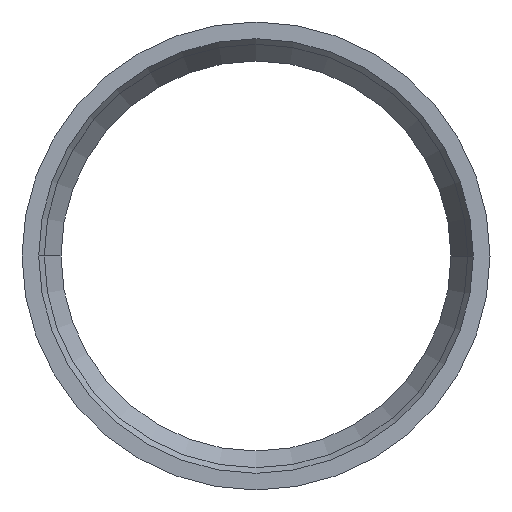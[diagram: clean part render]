
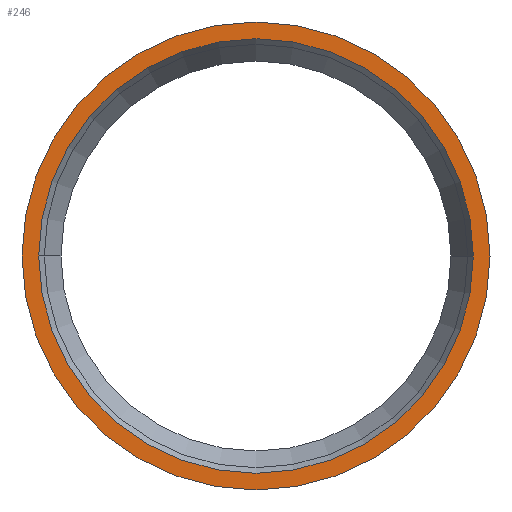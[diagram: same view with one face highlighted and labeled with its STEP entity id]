
A CAD part, left-side view. The second image highlights one B-rep face of the part: STEP entity #246.
In plain terms, the highlighted planar face has unit normal (-1, 0, 0).
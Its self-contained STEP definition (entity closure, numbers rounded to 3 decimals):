
#24 = AXIS2_PLACEMENT_3D ( 'NONE', #126, #58, #54 ) ;
#43 = CARTESIAN_POINT ( 'NONE',  ( -1498.75, 0., 0. ) ) ;
#47 = VERTEX_POINT ( 'NONE', #299 ) ;
#54 = DIRECTION ( 'NONE',  ( 0., 0., -1. ) ) ;
#58 = DIRECTION ( 'NONE',  ( 1., 0., 0. ) ) ;
#59 = PLANE ( 'NONE',  #24 ) ;
#63 = VERTEX_POINT ( 'NONE', #307 ) ;
#78 = ORIENTED_EDGE ( 'NONE', *, *, #335, .T. ) ;
#84 = EDGE_LOOP ( 'NONE', ( #417, #303 ) ) ;
#115 = ORIENTED_EDGE ( 'NONE', *, *, #175, .T. ) ;
#126 = CARTESIAN_POINT ( 'NONE',  ( -1498.75, 0., 0. ) ) ;
#144 = CARTESIAN_POINT ( 'NONE',  ( -1498.75, 0., 19.5 ) ) ;
#153 = DIRECTION ( 'NONE',  ( 0., 0., -1. ) ) ;
#154 = AXIS2_PLACEMENT_3D ( 'NONE', #43, #212, #328 ) ;
#157 = DIRECTION ( 'NONE',  ( 1., 0., 0. ) ) ;
#158 = CARTESIAN_POINT ( 'NONE',  ( -1498.75, 0., 0. ) ) ;
#162 = DIRECTION ( 'NONE',  ( 0., 0., -1. ) ) ;
#163 = DIRECTION ( 'NONE',  ( 1., 0., 0. ) ) ;
#164 = CARTESIAN_POINT ( 'NONE',  ( -1498.75, 0., 0. ) ) ;
#174 = EDGE_CURVE ( 'NONE', #382, #63, #185, .T. ) ;
#175 = EDGE_CURVE ( 'NONE', #47, #479, #416, .T. ) ;
#185 = CIRCLE ( 'NONE', #292, 21. ) ;
#212 = DIRECTION ( 'NONE',  ( 1., 0., 0. ) ) ;
#225 = CIRCLE ( 'NONE', #331, 21. ) ;
#246 = ADVANCED_FACE ( 'NONE', ( #271, #295 ), #59, .F. ) ;
#249 = DIRECTION ( 'NONE',  ( 1., 0., 0. ) ) ;
#271 = FACE_BOUND ( 'NONE', #390, .T. ) ;
#292 = AXIS2_PLACEMENT_3D ( 'NONE', #164, #163, #162 ) ;
#295 = FACE_OUTER_BOUND ( 'NONE', #84, .T. ) ;
#299 = CARTESIAN_POINT ( 'NONE',  ( -1498.75, 0., -19.5 ) ) ;
#303 = ORIENTED_EDGE ( 'NONE', *, *, #396, .F. ) ;
#307 = CARTESIAN_POINT ( 'NONE',  ( -1498.75, 0., -21. ) ) ;
#317 = AXIS2_PLACEMENT_3D ( 'NONE', #158, #157, #153 ) ;
#328 = DIRECTION ( 'NONE',  ( 0., 0., -1. ) ) ;
#331 = AXIS2_PLACEMENT_3D ( 'NONE', #449, #249, #481 ) ;
#335 = EDGE_CURVE ( 'NONE', #479, #47, #339, .T. ) ;
#339 = CIRCLE ( 'NONE', #154, 19.5 ) ;
#382 = VERTEX_POINT ( 'NONE', #451 ) ;
#390 = EDGE_LOOP ( 'NONE', ( #78, #115 ) ) ;
#396 = EDGE_CURVE ( 'NONE', #63, #382, #225, .T. ) ;
#416 = CIRCLE ( 'NONE', #317, 19.5 ) ;
#417 = ORIENTED_EDGE ( 'NONE', *, *, #174, .F. ) ;
#449 = CARTESIAN_POINT ( 'NONE',  ( -1498.75, 0., 0. ) ) ;
#451 = CARTESIAN_POINT ( 'NONE',  ( -1498.75, 0., 21. ) ) ;
#479 = VERTEX_POINT ( 'NONE', #144 ) ;
#481 = DIRECTION ( 'NONE',  ( 0., 0., -1. ) ) ;
